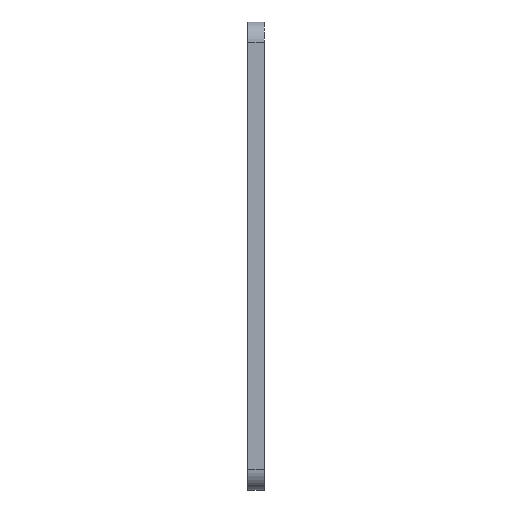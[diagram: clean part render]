
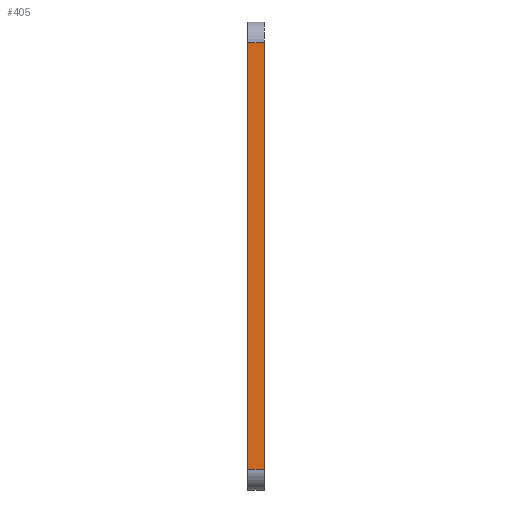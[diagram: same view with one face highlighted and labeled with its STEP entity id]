
A CAD part, left-side view. The second image highlights one B-rep face of the part: STEP entity #405.
In plain terms, the highlighted planar face has unit normal (-1, 0, 0).
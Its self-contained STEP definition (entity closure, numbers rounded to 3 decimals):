
#4 = FACE_OUTER_BOUND ( 'NONE', #408, .T. ) ;
#23 = CARTESIAN_POINT ( 'NONE',  ( -8.5, 2., -8.5 ) ) ;
#45 = CARTESIAN_POINT ( 'NONE',  ( -8.5, 0., -8.5 ) ) ;
#55 = VERTEX_POINT ( 'NONE', #466 ) ;
#100 = VECTOR ( 'NONE', #572, 1000. ) ;
#106 = CARTESIAN_POINT ( 'NONE',  ( -8.5, 2., 46. ) ) ;
#120 = VECTOR ( 'NONE', #317, 1000. ) ;
#121 = LINE ( 'NONE', #23, #850 ) ;
#139 = EDGE_CURVE ( 'NONE', #55, #245, #355, .T. ) ;
#215 = EDGE_CURVE ( 'NONE', #55, #883, #121, .T. ) ;
#223 = CARTESIAN_POINT ( 'NONE',  ( -8.5, 0., -6. ) ) ;
#245 = VERTEX_POINT ( 'NONE', #223 ) ;
#287 = LINE ( 'NONE', #45, #100 ) ;
#295 = ORIENTED_EDGE ( 'NONE', *, *, #629, .T. ) ;
#317 = DIRECTION ( 'NONE',  ( 0., 1., 0. ) ) ;
#328 = DIRECTION ( 'NONE',  ( 0., 0., 1. ) ) ;
#334 = LINE ( 'NONE', #726, #120 ) ;
#341 = EDGE_CURVE ( 'NONE', #552, #883, #334, .T. ) ;
#349 = AXIS2_PLACEMENT_3D ( 'NONE', #541, #739, #328 ) ;
#355 = LINE ( 'NONE', #839, #764 ) ;
#405 = ADVANCED_FACE ( 'NONE', ( #4 ), #868, .T. ) ;
#408 = EDGE_LOOP ( 'NONE', ( #753, #836, #295, #802 ) ) ;
#439 = DIRECTION ( 'NONE',  ( 0., 0., 1. ) ) ;
#466 = CARTESIAN_POINT ( 'NONE',  ( -8.5, 2., -6. ) ) ;
#541 = CARTESIAN_POINT ( 'NONE',  ( -8.5, 0., -8.5 ) ) ;
#552 = VERTEX_POINT ( 'NONE', #793 ) ;
#572 = DIRECTION ( 'NONE',  ( 0., 0., 1. ) ) ;
#629 = EDGE_CURVE ( 'NONE', #245, #552, #287, .T. ) ;
#726 = CARTESIAN_POINT ( 'NONE',  ( -8.5, 0., 46. ) ) ;
#739 = DIRECTION ( 'NONE',  ( -1., 0., 0. ) ) ;
#753 = ORIENTED_EDGE ( 'NONE', *, *, #215, .F. ) ;
#764 = VECTOR ( 'NONE', #770, 1000. ) ;
#770 = DIRECTION ( 'NONE',  ( 0., -1., 0. ) ) ;
#793 = CARTESIAN_POINT ( 'NONE',  ( -8.5, 0., 46. ) ) ;
#802 = ORIENTED_EDGE ( 'NONE', *, *, #341, .T. ) ;
#836 = ORIENTED_EDGE ( 'NONE', *, *, #139, .T. ) ;
#839 = CARTESIAN_POINT ( 'NONE',  ( -8.5, 0., -6. ) ) ;
#850 = VECTOR ( 'NONE', #439, 1000. ) ;
#868 = PLANE ( 'NONE',  #349 ) ;
#883 = VERTEX_POINT ( 'NONE', #106 ) ;
